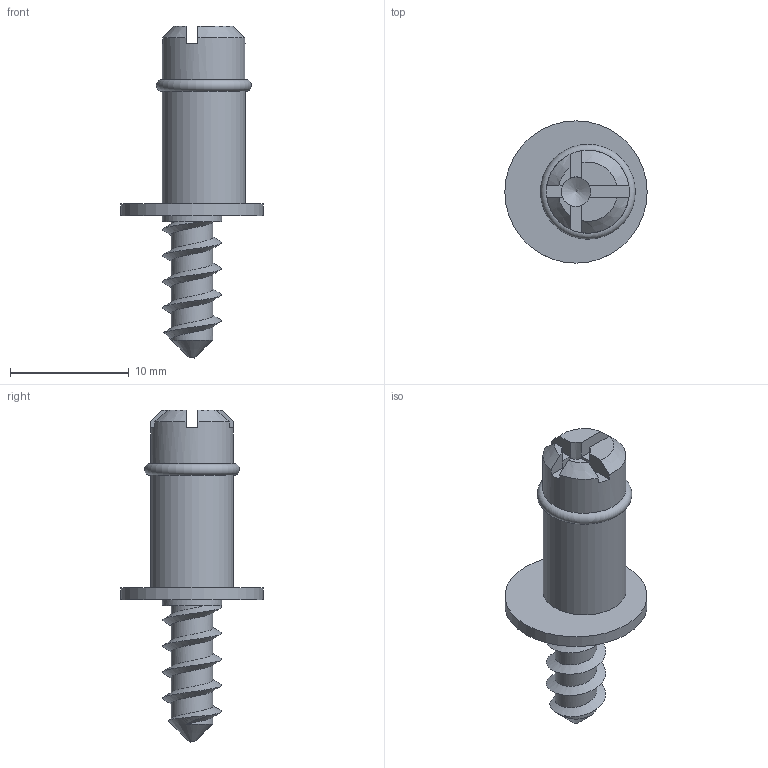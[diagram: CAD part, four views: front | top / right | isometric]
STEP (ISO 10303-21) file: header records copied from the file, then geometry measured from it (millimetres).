
FILE_DESCRIPTION((''),'2;1');
FILE_NAME('D:\DXF\0503405.stp','2010-04-01T13:38:43',('Mhlenbrock'),(''),'Autodesk Inventor 2010','Autodesk Inventor 2010','');
FILE_SCHEMA(('AUTOMOTIVE_DESIGN { 1 0 10303 214 1 1 1 1 }'));
Length unit declared in the file: millimetre
Products named in the file (1): Bauteil12
Bounding box: 12 x 12 x 28 mm (x, y, z)
Volume: 792.8 mm3; surface area: 844.8 mm2
Topology: 1 solids, 1 shells, 36 faces, 95 edges, 62 vertices
Faces by surface type: plane 20, cylinder 5, cone 5, bspline 4, torus 2
Full cylindrical faces by diameter (mm): 5 x1, 7 x2, 12 x1
Entity records: 1522 total; most frequent: CARTESIAN_POINT 654, DIRECTION 162, ORIENTED_EDGE 158, EDGE_CURVE 79, AXIS2_PLACEMENT_3D 65, VERTEX_POINT 55, EDGE_LOOP 46, STYLED_ITEM 37
